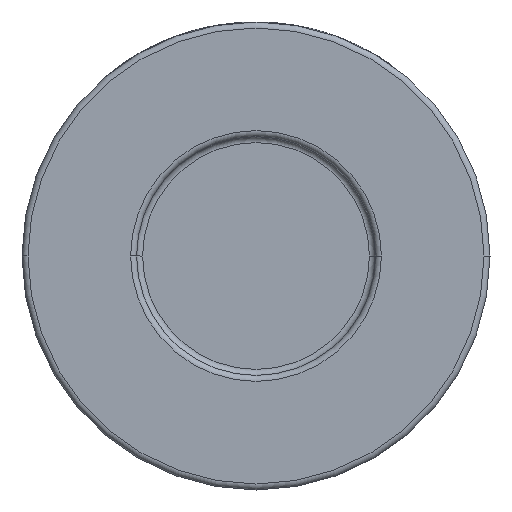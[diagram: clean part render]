
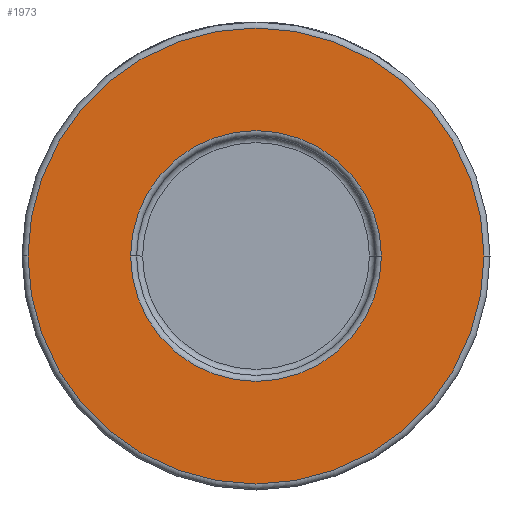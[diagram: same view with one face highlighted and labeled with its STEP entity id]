
A CAD part, front view. The second image highlights one B-rep face of the part: STEP entity #1973.
In plain terms, the highlighted planar face has unit normal (0, -1, 0).
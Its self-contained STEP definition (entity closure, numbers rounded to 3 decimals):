
#15 = VERTEX_POINT ( 'NONE', #2707 ) ;
#47 = AXIS2_PLACEMENT_3D ( 'NONE', #3949, #4630, #3528 ) ;
#87 = CARTESIAN_POINT ( 'NONE',  ( 20.9, -26., 0. ) ) ;
#190 = AXIS2_PLACEMENT_3D ( 'NONE', #878, #1571, #1522 ) ;
#224 = CARTESIAN_POINT ( 'NONE',  ( -38., -26., 0. ) ) ;
#249 = DIRECTION ( 'NONE',  ( 0., -1., 0. ) ) ;
#278 = CIRCLE ( 'NONE', #47, 38. ) ;
#303 = EDGE_LOOP ( 'NONE', ( #1625, #2647 ) ) ;
#384 = DIRECTION ( 'NONE',  ( 0., 1., 0. ) ) ;
#535 = EDGE_LOOP ( 'NONE', ( #4005, #3562 ) ) ;
#858 = VERTEX_POINT ( 'NONE', #87 ) ;
#878 = CARTESIAN_POINT ( 'NONE',  ( 0., -26., 0. ) ) ;
#1028 = PLANE ( 'NONE',  #3056 ) ;
#1522 = DIRECTION ( 'NONE',  ( 1., 0., 0. ) ) ;
#1571 = DIRECTION ( 'NONE',  ( 0., 1., 0. ) ) ;
#1596 = CIRCLE ( 'NONE', #190, 20.9 ) ;
#1625 = ORIENTED_EDGE ( 'NONE', *, *, #3780, .T. ) ;
#1973 = ADVANCED_FACE ( 'NONE', ( #3100, #4239 ), #1028, .T. ) ;
#1979 = AXIS2_PLACEMENT_3D ( 'NONE', #3232, #384, #4269 ) ;
#2460 = CARTESIAN_POINT ( 'NONE',  ( 39., -26., 0. ) ) ;
#2541 = VERTEX_POINT ( 'NONE', #3696 ) ;
#2567 = AXIS2_PLACEMENT_3D ( 'NONE', #3801, #3490, #3053 ) ;
#2570 = CIRCLE ( 'NONE', #1979, 20.9 ) ;
#2647 = ORIENTED_EDGE ( 'NONE', *, *, #3153, .T. ) ;
#2707 = CARTESIAN_POINT ( 'NONE',  ( -20.9, -26., 0. ) ) ;
#3053 = DIRECTION ( 'NONE',  ( 1., 0., 0. ) ) ;
#3056 = AXIS2_PLACEMENT_3D ( 'NONE', #2460, #249, #4528 ) ;
#3100 = FACE_BOUND ( 'NONE', #535, .T. ) ;
#3153 = EDGE_CURVE ( 'NONE', #4466, #2541, #278, .T. ) ;
#3232 = CARTESIAN_POINT ( 'NONE',  ( 0., -26., 0. ) ) ;
#3490 = DIRECTION ( 'NONE',  ( 0., -1., 0. ) ) ;
#3528 = DIRECTION ( 'NONE',  ( 1., 0., 0. ) ) ;
#3562 = ORIENTED_EDGE ( 'NONE', *, *, #4246, .T. ) ;
#3696 = CARTESIAN_POINT ( 'NONE',  ( 38., -26., 0. ) ) ;
#3780 = EDGE_CURVE ( 'NONE', #2541, #4466, #4585, .T. ) ;
#3801 = CARTESIAN_POINT ( 'NONE',  ( 0., -26., 0. ) ) ;
#3949 = CARTESIAN_POINT ( 'NONE',  ( 0., -26., 0. ) ) ;
#4005 = ORIENTED_EDGE ( 'NONE', *, *, #4035, .T. ) ;
#4035 = EDGE_CURVE ( 'NONE', #858, #15, #2570, .T. ) ;
#4239 = FACE_OUTER_BOUND ( 'NONE', #303, .T. ) ;
#4246 = EDGE_CURVE ( 'NONE', #15, #858, #1596, .T. ) ;
#4269 = DIRECTION ( 'NONE',  ( 1., 0., 0. ) ) ;
#4466 = VERTEX_POINT ( 'NONE', #224 ) ;
#4528 = DIRECTION ( 'NONE',  ( 1., 0., 0. ) ) ;
#4585 = CIRCLE ( 'NONE', #2567, 38. ) ;
#4630 = DIRECTION ( 'NONE',  ( 0., -1., 0. ) ) ;
